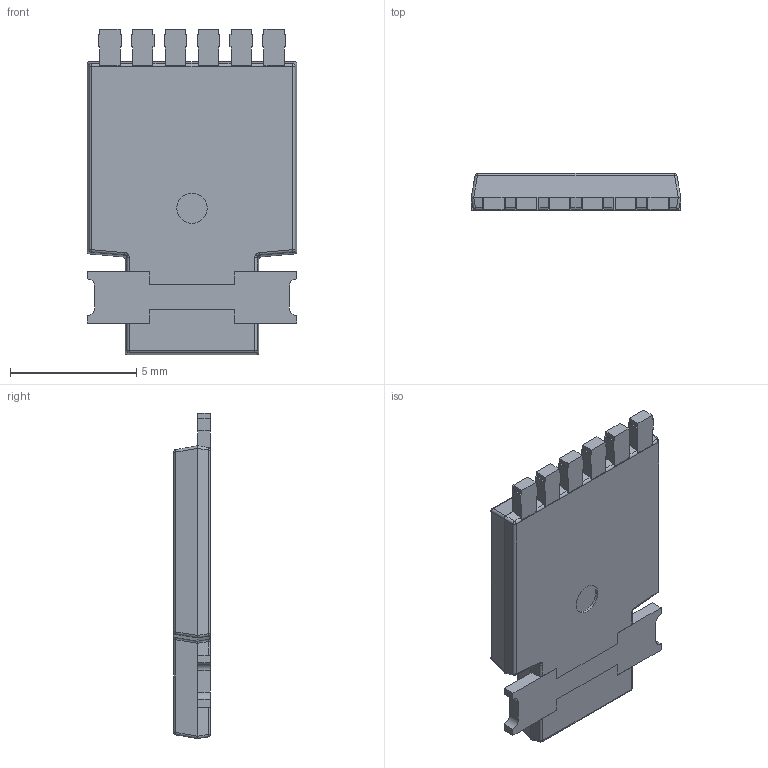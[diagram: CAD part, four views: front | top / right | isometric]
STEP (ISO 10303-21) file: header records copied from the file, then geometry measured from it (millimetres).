
FILE_DESCRIPTION (( 'STEP AP203' ), '1' );
FILE_NAME ('LX 37200 Assem External.STEP', '2025-10-08T20:26:59', ( '' ), ( '' ), 'SwSTEP 2.0', 'SolidWorks 2019', '' );
FILE_SCHEMA (( 'CONFIG_CONTROL_DESIGN' ));
Length unit declared in the file: millimetre
Products named in the file (4): 37200LX LF; LX 37200 Assem External; Top mold V2; Bottom mold V2
Assembly tree (3 placements, depth 2):
  LX 37200 Assem External
    Bottom mold V2
    37200LX LF
    Top mold V2
Bounding box: 8.3 x 1.45 x 12.89 mm (x, y, z)
Volume: 124.3 mm3; surface area: 438.7 mm2
Topology: 10 solids, 10 shells, 224 faces, 574 edges, 360 vertices
Faces by surface type: plane 162, cylinder 42, sphere 12, bspline 8
Entity records: 7028 total; most frequent: CARTESIAN_POINT 1342, ORIENTED_EDGE 1124, DIRECTION 1050, EDGE_CURVE 562, LINE 450, VECTOR 450, VERTEX_POINT 360, AXIS2_PLACEMENT_3D 300
